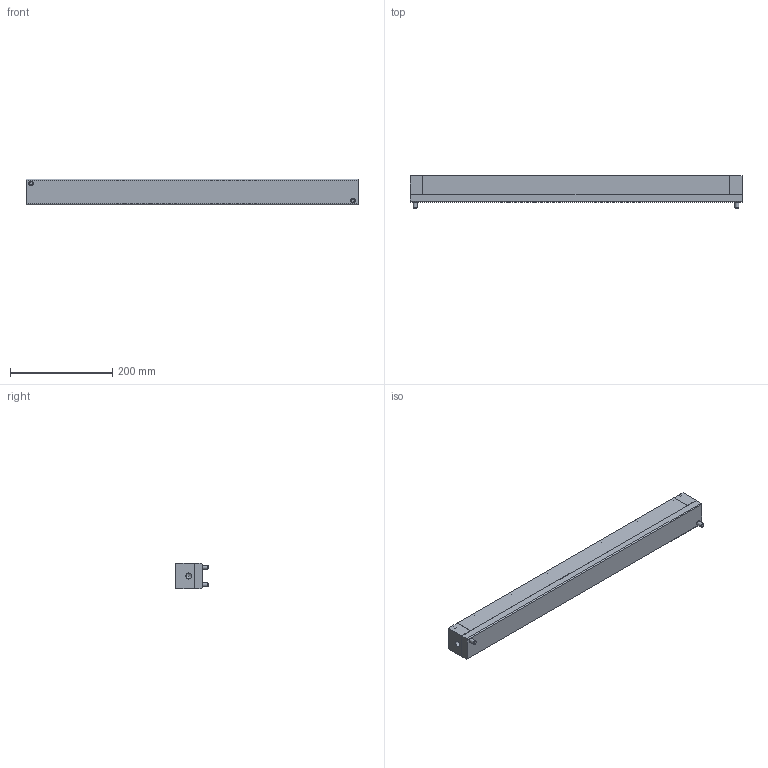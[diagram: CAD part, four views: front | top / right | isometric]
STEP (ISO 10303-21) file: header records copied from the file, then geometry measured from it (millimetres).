
FILE_DESCRIPTION( ( 'STEP AP214' ), '1' );
FILE_NAME( 'Z:/01-DesignData/標準品図面/★Web／カタログ用データ(型式別 3点Set)/072-ISR-C50D 系/ISR-C50D-650-A_0_.stp', '2022-05-10T00:43:58', ( 'License CC BY-ND 4.0' ), ( 'CADENAS' ), ' ', 'PARTsolutions', ' ' );
FILE_SCHEMA( ( 'AUTOMOTIVE_DESIGN { 1 0 10303 214 1 1 1 1 }' ) );
Length unit declared in the file: millimetre
Products named in the file (5): ISR-C50D-650-A(0); _ISR-C50D-650-A-Body; _ISR-C50D-650-A-Box; _ISR-C50D-650-A(0)-Ball; _ISR-C50D-650-A-screw
Assembly tree (16 placements, depth 2):
  ISR-C50D-650-A(0)
    _ISR-C50D-650-A-Body
    _ISR-C50D-650-A-Box
    _ISR-C50D-650-A(0)-Ball  x12
    _ISR-C50D-650-A-screw  x2
Bounding box: 650 x 64 x 49.5 mm (x, y, z)
Volume: 1585623 mm3; surface area: 360690.3 mm2
Topology: 16 solids, 16 shells, 728 faces, 1554 edges, 950 vertices
Faces by surface type: plane 500, cylinder 120, torus 52, cone 44, sphere 12
Full cylindrical faces by diameter (mm): 8 x2, 8.5 x24, 9 x2, 9.5 x24, 13 x4, 14.5 x4, 25.4 x12, 38.5 x12, 39 x12, 42 x24
Entity records: 19964 total; most frequent: DIRECTION 2704, CARTESIAN_POINT 2498, ORIENTED_EDGE 2218, EDGE_CURVE 1109, AXIS2_PLACEMENT_3D 980, EDGE_LOOP 828, VERTEX_POINT 774, LINE 744
